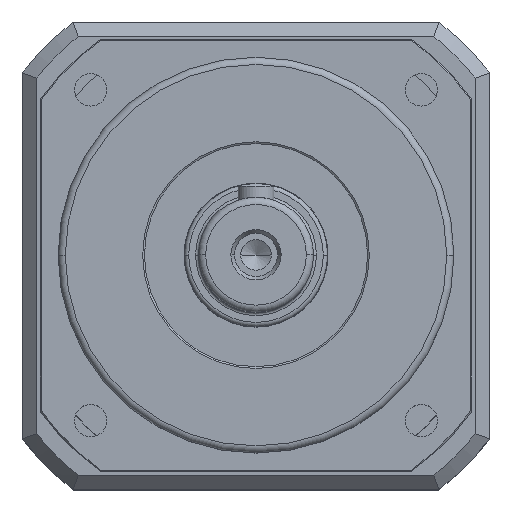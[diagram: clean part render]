
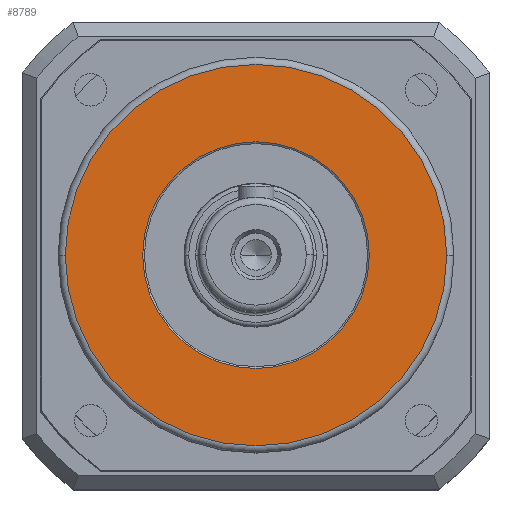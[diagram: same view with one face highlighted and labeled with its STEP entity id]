
A CAD part, top view. The second image highlights one B-rep face of the part: STEP entity #8789.
In plain terms, the highlighted planar face has unit normal (0, 0, 1).
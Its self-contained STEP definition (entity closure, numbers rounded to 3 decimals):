
#905 = AXIS2_PLACEMENT_3D ( 'NONE', #1398, #1400, #1402 ) ;
#1161 = EDGE_LOOP ( 'NONE', ( #14259, #7211 ) ) ;
#1162 = EDGE_LOOP ( 'NONE', ( #7213, #7212 ) ) ;
#1397 = PLANE ( 'NONE',  #905 ) ;
#1398 = CARTESIAN_POINT ( 'NONE',  ( 0., 0., 12. ) ) ;
#1400 = DIRECTION ( 'NONE',  ( 0., 0., 1. ) ) ;
#1402 = DIRECTION ( 'NONE',  ( 1., 0., 0. ) ) ;
#2982 = CARTESIAN_POINT ( 'NONE',  ( 31.5, 0., 12. ) ) ;
#2984 = CARTESIAN_POINT ( 'NONE',  ( -53., 0., 12. ) ) ;
#2985 = CARTESIAN_POINT ( 'NONE',  ( -31.5, 0., 12. ) ) ;
#2993 = CARTESIAN_POINT ( 'NONE',  ( 53., 0., 12. ) ) ;
#3617 = FACE_BOUND ( 'NONE', #1161, .T. ) ;
#3618 = FACE_OUTER_BOUND ( 'NONE', #1162, .T. ) ;
#7211 = ORIENTED_EDGE ( 'NONE', *, *, #8182, .T. ) ;
#7212 = ORIENTED_EDGE ( 'NONE', *, *, #8183, .T. ) ;
#7213 = ORIENTED_EDGE ( 'NONE', *, *, #13997, .T. ) ;
#8182 = EDGE_CURVE ( 'NONE', #11392, #11389, #10168, .T. ) ;
#8183 = EDGE_CURVE ( 'NONE', #11391, #11400, #10176, .T. ) ;
#8789 = ADVANCED_FACE ( 'NONE', ( #3617, #3618 ), #1397, .T. ) ;
#10168 = CIRCLE ( 'NONE', #10175, 31.5 ) ;
#10175 = AXIS2_PLACEMENT_3D ( 'NONE', #16254, #16255, #16256 ) ;
#10176 = CIRCLE ( 'NONE', #10177, 53. ) ;
#10177 = AXIS2_PLACEMENT_3D ( 'NONE', #16257, #16258, #16259 ) ;
#11389 = VERTEX_POINT ( 'NONE', #2982 ) ;
#11391 = VERTEX_POINT ( 'NONE', #2984 ) ;
#11392 = VERTEX_POINT ( 'NONE', #2985 ) ;
#11400 = VERTEX_POINT ( 'NONE', #2993 ) ;
#13993 = EDGE_CURVE ( 'NONE', #11389, #11392, #19889, .T. ) ;
#13997 = EDGE_CURVE ( 'NONE', #11400, #11391, #19876, .T. ) ;
#14259 = ORIENTED_EDGE ( 'NONE', *, *, #13993, .T. ) ;
#16254 = CARTESIAN_POINT ( 'NONE',  ( 0., 0., 12. ) ) ;
#16255 = DIRECTION ( 'NONE',  ( 0., 0., -1. ) ) ;
#16256 = DIRECTION ( 'NONE',  ( 1., 0., 0. ) ) ;
#16257 = CARTESIAN_POINT ( 'NONE',  ( 0., 0., 12. ) ) ;
#16258 = DIRECTION ( 'NONE',  ( 0., 0., 1. ) ) ;
#16259 = DIRECTION ( 'NONE',  ( 1., 0., 0. ) ) ;
#19712 = CARTESIAN_POINT ( 'NONE',  ( 0., 0., 12. ) ) ;
#19713 = DIRECTION ( 'NONE',  ( 0., 0., -1. ) ) ;
#19714 = DIRECTION ( 'NONE',  ( 1., 0., 0. ) ) ;
#19876 = CIRCLE ( 'NONE', #19907, 53. ) ;
#19889 = CIRCLE ( 'NONE', #19891, 31.5 ) ;
#19891 = AXIS2_PLACEMENT_3D ( 'NONE', #19712, #19713, #19714 ) ;
#19907 = AXIS2_PLACEMENT_3D ( 'NONE', #20034, #20036, #20037 ) ;
#20034 = CARTESIAN_POINT ( 'NONE',  ( 0., 0., 12. ) ) ;
#20036 = DIRECTION ( 'NONE',  ( 0., 0., 1. ) ) ;
#20037 = DIRECTION ( 'NONE',  ( 1., 0., 0. ) ) ;
